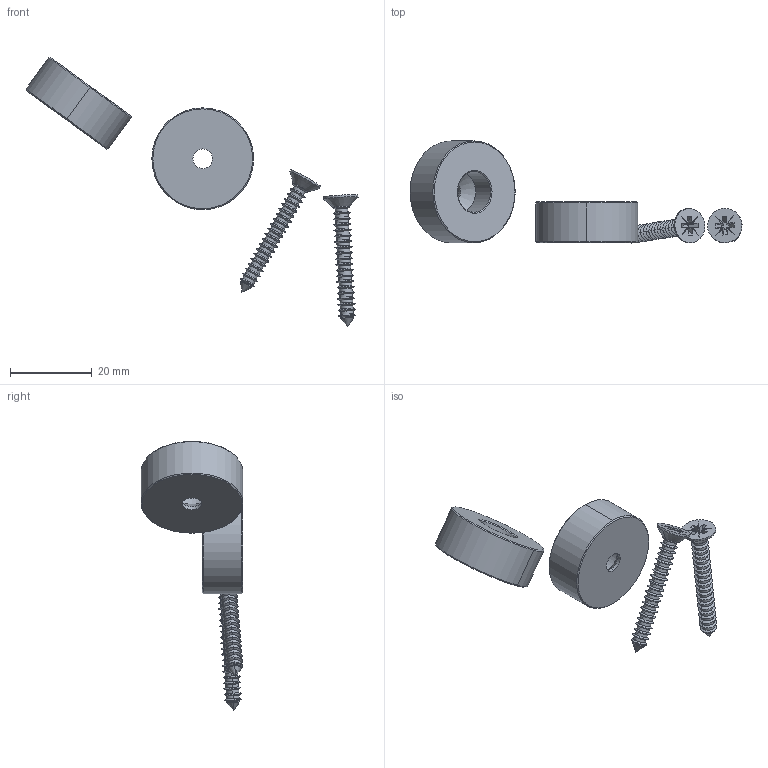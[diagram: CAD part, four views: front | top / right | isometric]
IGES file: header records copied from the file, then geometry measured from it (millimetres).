
Start section: 3D InterOp IGES (v. 2022 1.0.1), Spatial Corp. Copyright (c) 1999-2020.
Global section: file name: F142_B_BLOCK_15.08.193 Top & Bottom Turning Blocks F_Pivot Hinge 15.08.192 _25x10mm.igs; native system: Spatial Corp.; preprocessor: 3D InterOp GENERIC/IGES 3.0; author: Noname; organization: Noname; date: 20251208.172042; units: millimetre
Bounding box: 81.17 x 24.9 x 65.82 mm (x, y, z)
Volume: 9278.2 mm3; surface area: 5038 mm2
Topology: 4 solids, 4 shells, 348 faces, 748 edges, 406 vertices
Faces by surface type: cone 184, cylinder 100, extrusion 56, bspline 8
